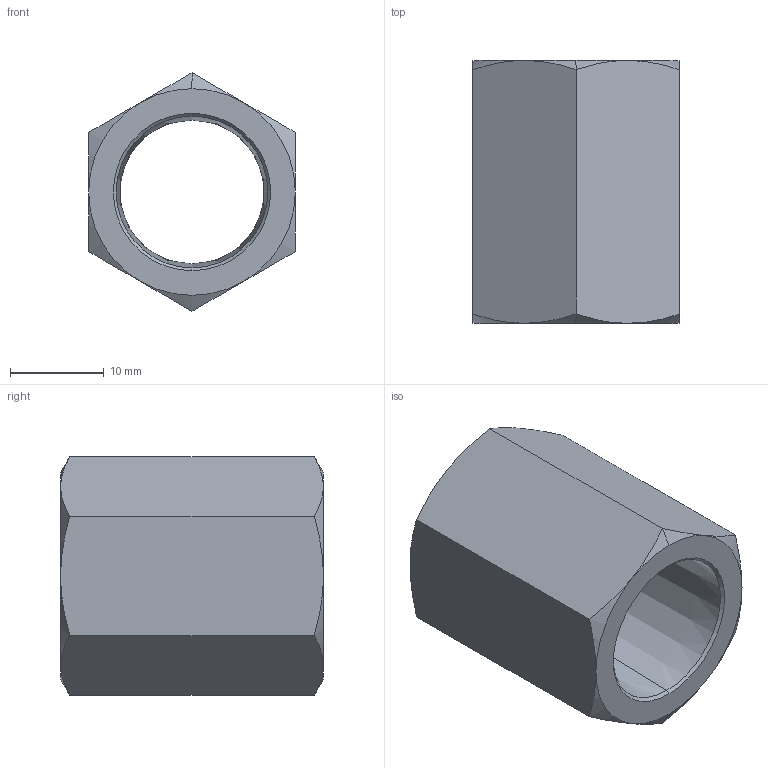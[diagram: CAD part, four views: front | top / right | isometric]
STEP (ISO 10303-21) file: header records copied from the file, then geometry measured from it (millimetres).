
FILE_DESCRIPTION (( 'STEP AP203' ), '1' );
FILE_NAME ('BXH02 N3N3 00.STEP', '2018-10-27T12:13:20', ( '' ), ( '' ), 'SwSTEP 2.0', 'SolidWorks 2013', '' );
FILE_SCHEMA (( 'CONFIG_CONTROL_DESIGN' ));
Length unit declared in the file: millimetre
Products named in the file (1): BXH02 N3N3 00
Bounding box: 22 x 28 x 25.4 mm (x, y, z)
Volume: 6255.4 mm3; surface area: 3890.9 mm2
Topology: 1 solids, 1 shells, 30 faces, 64 edges, 36 vertices
Faces by surface type: cone 22, plane 8
Entity records: 977 total; most frequent: CARTESIAN_POINT 283, ORIENTED_EDGE 128, DIRECTION 126, EDGE_CURVE 64, AXIS2_PLACEMENT_3D 55, VERTEX_POINT 36, EDGE_LOOP 32, ADVANCED_FACE 30
